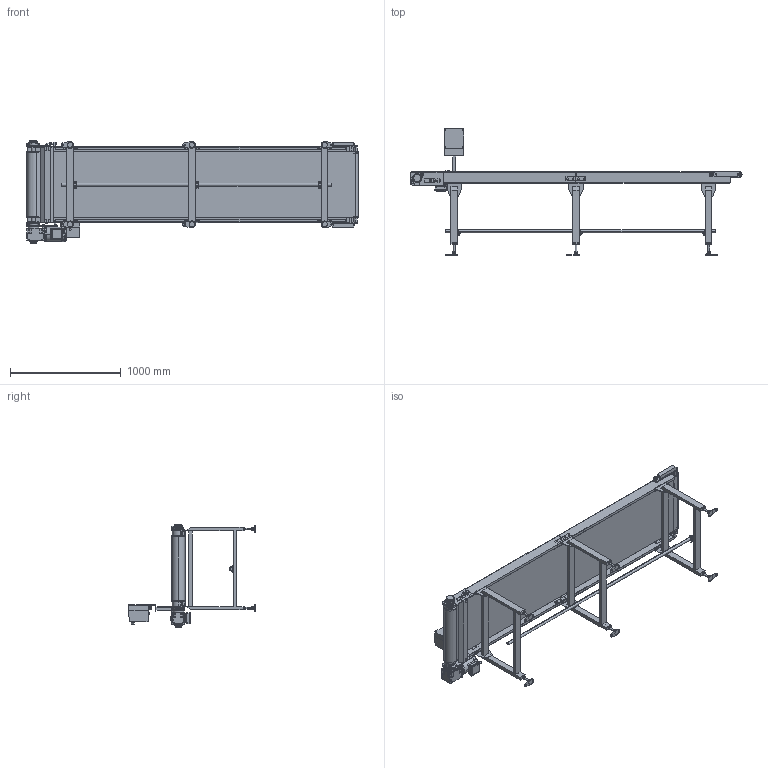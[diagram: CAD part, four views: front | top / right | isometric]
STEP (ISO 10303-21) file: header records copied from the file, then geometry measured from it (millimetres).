
FILE_DESCRIPTION (( 'STEP AP214' ), '1' );
FILE_NAME ('FB3H-340-600-300-R-IVH-30.STEP', '2023-04-20T06:33:42', ( '' ), ( '' ), 'SwSTEP 2.0', 'SolidWorks 2017', '' );
FILE_SCHEMA (( 'AUTOMOTIVE_DESIGN' ));
Length unit declared in the file: millimetre
Products named in the file (1): FB3H-340-600-300-R-IVH-30
Bounding box: 3001.2 x 1141 x 926.7 mm (x, y, z)
Volume: 45402426 mm3; surface area: 16395334.3 mm2
Topology: 71 solids, 73 shells, 2695 faces, 6469 edges, 4156 vertices
Faces by surface type: plane 1655, cylinder 714, cone 241, torus 51, bspline 18, sphere 16
Entity records: 111480 total; most frequent: CARTESIAN_POINT 17039, DIRECTION 13533, ORIENTED_EDGE 12898, EDGE_CURVE 6449, AXIS2_PLACEMENT_3D 4668, LINE 4197, VECTOR 4197, VERTEX_POINT 4156
